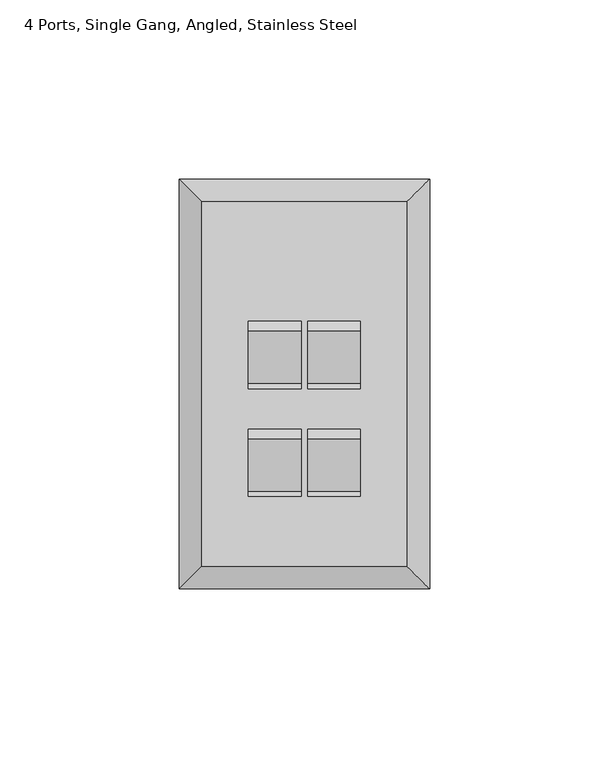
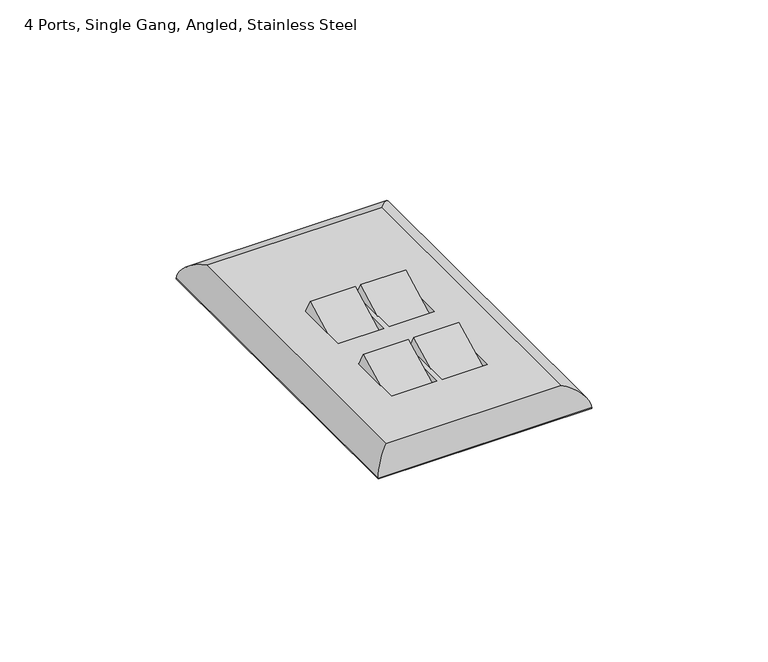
"""IFC4 building model written with IfcOpenShell, lengths in millimetres: electric appliance geometry, Data_Device-Work_Area-Leviton-QuickPort-Wallplate : 4 Ports, Single Gang, Angled, Stainless Steel."""

from ifc_helpers import new_model, si_unit, frame, origin, origin_with_axes, place, context, project, spatial, polyline, ellipse_curve, outline, extrude, source, transform, mapped, element, save
from ifc_brep_helpers import plane_surface, cylinder_surface, advanced_brep


def electric_appliance_4_ports_single_gang_angled_stainless_1cfd1c8f(model_context):
    return source(origin(), model_context, "Body", "SolidModel", [
        extrude(outline(polyline([(0.0, -16.51), (0.0, 0.0), (14.732, 0.0), (14.732, -16.51), (0.0, -16.51)])), frame((-7.3914, -18.8557048, -2.12579), z_axis=(0.0, -0.4558553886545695, 0.8900538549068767), x_axis=(-1.0, 0.0, 0.0)), (0.0, 0.0, 1.0), 6.35),
        extrude(outline(polyline([(0.0, -16.51), (0.0, 0.0), (14.732, 0.0), (14.732, -16.51), (0.0, -16.51)])), frame((-7.3914, 11.2505157, -2.12579), z_axis=(0.0, -0.4558553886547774, 0.8900538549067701), x_axis=(-1.0, 0.0, 0.0)), (0.0, 0.0, 1.0), 6.35),
        extrude(outline(polyline([(31.2674, 0.0), (31.2674, -16.51), (16.5354, -16.51), (16.5354, 0.0), (31.2674, 0.0)])), frame((-7.3914, -18.8557048, -2.12579), z_axis=(0.0, -0.4558553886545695, 0.8900538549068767), x_axis=(-1.0, 0.0, 0.0)), (0.0, 0.0, 1.0), 6.35),
        extrude(outline(polyline([(31.2674, 0.0), (31.2674, -16.51), (16.5354, -16.51), (16.5354, 0.0), (31.2674, 0.0)])), frame((-7.3914, 11.2505157, -2.12579), z_axis=(0.0, -0.4558553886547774, 0.8900538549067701), x_axis=(-1.0, 0.0, 0.0)), (0.0, 0.0, 1.0), 6.35),
        advanced_brep(
        [(5.5499, -42.6085, 6.35), (5.5499, 58.9915, 6.35), (-51.6001, 58.9915, 6.35), (-51.6001, -42.6085, 6.35), (-7.3914, -4.6472775, 6.35), (-7.3914, -23.1967169, 6.35), (-22.1234, -23.1967169, 6.35), (-22.1234, -4.6472775, 6.35), (-23.9268, -4.6472775, 6.35), (-23.9268, -23.1967169, 6.35), (-38.6588, -23.1967169, 6.35), (-38.6588, -4.6472775, 6.35), (-7.3914, 25.458943, 6.35), (-7.3914, 6.9095036, 6.35), (-22.1234, 6.9095036, 6.35), (-22.1234, 25.458943, 6.35), (-23.9268, 25.458943, 6.35), (-23.9268, 6.9095036, 6.35), (-38.6588, 6.9095036, 6.35), (-38.6588, 25.458943, 6.35), (11.8999, 65.3415, 0.0), (11.8999, -48.9585, 0.0), (-57.9501, -48.9585, 0.0), (-57.9501, 65.3415, 0.0), (-7.3914, -19.9444623, 0.0), (-7.3914, -1.3950229, 0.0), (-22.1234, -1.3950229, 0.0), (-22.1234, -19.9444623, 0.0), (-23.9268, -19.9444623, 0.0), (-23.9268, -1.3950229, 0.0), (-38.6588, -1.3950229, 0.0), (-38.6588, -19.9444623, 0.0), (-7.3914, 10.1617582, 0.0), (-7.3914, 28.7111975, 0.0), (-22.1234, 28.7111975, 0.0), (-22.1234, 10.1617582, 0.0), (-23.9268, 10.1617582, 0.0), (-23.9268, 28.7111975, 0.0), (-38.6588, 28.7111975, 0.0), (-38.6588, 10.1617582, 0.0), (-57.9501, 65.3415, 0.254), (11.8999, 65.3415, 0.254), (-57.9501, -48.9585, 0.254), (11.8999, -48.9585, 0.254)],
        [
            (0, 1),
            (1, 2),
            (2, 3),
            (3, 0),
            (4, 5),
            (5, 6),
            (6, 7),
            (7, 4),
            (8, 9),
            (9, 10),
            (10, 11),
            (11, 8),
            (12, 13),
            (13, 14),
            (14, 15),
            (15, 12),
            (16, 17),
            (17, 18),
            (18, 19),
            (19, 16),
            (20, 21),
            (21, 22),
            (22, 23),
            (23, 20),
            (24, 25),
            (25, 26),
            (26, 27),
            (27, 24),
            (28, 29),
            (29, 30),
            (30, 31),
            (31, 28),
            (32, 33),
            (33, 34),
            (34, 35),
            (35, 32),
            (36, 37),
            (37, 38),
            (38, 39),
            (39, 36),
            (23, 40),
            (40, 41),
            (41, 20),
            (22, 42),
            (42, 40),
            (21, 43),
            (43, 42),
            (41, 43),
            (4, 25),
            (24, 5),
            (27, 6),
            (26, 7),
            (8, 29),
            (28, 9),
            (31, 10),
            (30, 11),
            (12, 33),
            (32, 13),
            (35, 14),
            (34, 15),
            (16, 37),
            (36, 17),
            (39, 18),
            (38, 19),
            (0, 43, ellipse_curve(frame((5.5499, -42.6085, -0.0052917), z_axis=(0.7071067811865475, 0.7071067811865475, 0.0), x_axis=(0.7071067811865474, -0.7071067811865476, 0.0)), 8.9877397, 6.3552917)),
            (41, 1, ellipse_curve(frame((5.5499, 58.9915, -0.0052917), z_axis=(0.7071067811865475, -0.7071067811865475, 0.0), x_axis=(-0.7071067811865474, -0.7071067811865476, 0.0)), 8.9877397, 6.3552917)),
            (3, 42, ellipse_curve(frame((-51.6001, -42.6085, -0.0052917), z_axis=(0.7071067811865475, -0.7071067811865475, 0.0), x_axis=(-0.7071067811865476, -0.7071067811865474, 0.0)), 8.9877397, 6.3552917)),
            (2, 40, ellipse_curve(frame((-51.6001, 58.9915, -0.0052917), z_axis=(-0.7071067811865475, -0.7071067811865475, 0.0), x_axis=(-0.7071067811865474, 0.7071067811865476, 0.0)), 8.9877397, 6.3552917)),
        ],
        [
            plane_surface(frame((-57.9501, 65.3415, 6.35), z_axis=(0.0, 0.0, 1.0), x_axis=(-1.0, 0.0, 0.0))),
            plane_surface(frame((-57.9501, 65.3415, 0.0), z_axis=(0.0, 0.0, -1.0), x_axis=(1.0, 0.0, 0.0))),
            plane_surface(frame((11.8999, 65.3415, 6.35), z_axis=(0.0, 1.0, 0.0), x_axis=(0.0, 0.0, -1.0))),
            plane_surface(frame((-57.9501, 65.3415, 6.35), z_axis=(-1.0, 0.0, 0.0), x_axis=(0.0, 0.0, -1.0))),
            plane_surface(frame((-57.9501, -48.9585, 6.35), z_axis=(0.0, -1.0, 0.0), x_axis=(0.0, 0.0, -1.0))),
            plane_surface(frame((11.8999, -48.9585, 6.35), z_axis=(1.0, 0.0, 0.0), x_axis=(0.0, 0.0, -1.0))),
            plane_surface(frame((-7.3914, -0.1083612, -2.5121963), z_axis=(-1.0, 0.0, 0.0), x_axis=(0.0, -0.45585538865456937, 0.8900538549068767))),
            plane_surface(frame((-7.3914, -14.8031504, -10.0383688), z_axis=(0.0, 0.8900538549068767, 0.4558553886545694), x_axis=(0.0, -0.4558553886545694, 0.8900538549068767))),
            plane_surface(frame((-22.1234, -14.8031504, -10.0383688), z_axis=(1.0, 0.0, 0.0), x_axis=(0.0, -0.4558553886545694, 0.8900538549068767))),
            plane_surface(frame((-22.1234, -0.1083612, -2.5121963), z_axis=(0.0, -0.8900538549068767, -0.45585538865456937), x_axis=(0.0, -0.45585538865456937, 0.8900538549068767))),
            plane_surface(frame((-23.9268, -0.1083612, -2.5121963), z_axis=(-1.0, 0.0, 0.0), x_axis=(0.0, -0.45585538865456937, 0.8900538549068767))),
            plane_surface(frame((-23.9268, -14.8031504, -10.0383688), z_axis=(0.0, 0.8900538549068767, 0.4558553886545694), x_axis=(0.0, -0.4558553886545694, 0.8900538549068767))),
            plane_surface(frame((-38.6588, -14.8031504, -10.0383688), z_axis=(1.0, 0.0, 0.0), x_axis=(0.0, -0.4558553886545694, 0.8900538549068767))),
            plane_surface(frame((-38.6588, -0.1083612, -2.5121963), z_axis=(0.0, -0.8900538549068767, -0.45585538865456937), x_axis=(0.0, -0.45585538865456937, 0.8900538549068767))),
            plane_surface(frame((-7.3914, 29.9978593, -2.5121963), z_axis=(-1.0, 0.0, 0.0), x_axis=(0.0, -0.45585538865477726, 0.8900538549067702))),
            plane_surface(frame((-7.3914, 15.3030701, -10.0383688), z_axis=(0.0, 0.8900538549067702, 0.45585538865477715), x_axis=(0.0, -0.45585538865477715, 0.8900538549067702))),
            plane_surface(frame((-22.1234, 15.3030701, -10.0383688), z_axis=(1.0, 0.0, 0.0), x_axis=(0.0, -0.45585538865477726, 0.8900538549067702))),
            plane_surface(frame((-22.1234, 29.9978593, -2.5121963), z_axis=(0.0, -0.8900538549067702, -0.45585538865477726), x_axis=(0.0, -0.45585538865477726, 0.8900538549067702))),
            plane_surface(frame((-23.9268, 29.9978593, -2.5121963), z_axis=(-1.0, 0.0, 0.0), x_axis=(0.0, -0.45585538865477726, 0.8900538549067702))),
            plane_surface(frame((-23.9268, 15.3030701, -10.0383688), z_axis=(0.0, 0.8900538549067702, 0.45585538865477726), x_axis=(0.0, -0.45585538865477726, 0.8900538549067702))),
            plane_surface(frame((-38.6588, 15.3030701, -10.0383688), z_axis=(1.0, 0.0, 0.0), x_axis=(0.0, -0.45585538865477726, 0.8900538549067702))),
            plane_surface(frame((-38.6588, 29.9978593, -2.5121963), z_axis=(0.0, -0.8900538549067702, -0.45585538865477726), x_axis=(0.0, -0.45585538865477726, 0.8900538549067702))),
            cylinder_surface(frame((5.5499, 65.3415, -0.0052917), z_axis=(0.0, -1.0, 0.0), x_axis=(1.0, 0.0, 0.0)), 6.3552917),
            cylinder_surface(frame((11.8999, -42.6085, -0.0052917), z_axis=(-1.0, 0.0, 0.0), x_axis=(0.0, -1.0, 0.0)), 6.3552917),
            cylinder_surface(frame((-51.6001, -48.9585, -0.0052917), z_axis=(0.0, 1.0, 0.0), x_axis=(-1.0, 0.0, 0.0)), 6.3552917),
            cylinder_surface(frame((-57.9501, 58.9915, -0.0052917), z_axis=(1.0, 0.0, 0.0), x_axis=(0.0, 1.0, 0.0)), 6.3552917),
        ],
        [
            (0, [[1, 2, 3, 4], [5, 6, 7, 8], [9, 10, 11, 12], [13, 14, 15, 16], [17, 18, 19, 20]]),
            (1, [[21, 22, 23, 24], [25, 26, 27, 28], [29, 30, 31, 32], [33, 34, 35, 36], [37, 38, 39, 40]]),
            (2, [[-24, 41, 42, 43]]),
            (3, [[-23, 44, 45, -41]]),
            (4, [[-22, 46, 47, -44]]),
            (5, [[-21, -43, 48, -46]]),
            (6, [[49, -25, 50, -5]]),
            (7, [[-50, -28, 51, -6]]),
            (8, [[-51, -27, 52, -7]]),
            (9, [[-49, -8, -52, -26]]),
            (10, [[53, -29, 54, -9]]),
            (11, [[-54, -32, 55, -10]]),
            (12, [[-55, -31, 56, -11]]),
            (13, [[-53, -12, -56, -30]]),
            (14, [[57, -33, 58, -13]]),
            (15, [[-58, -36, 59, -14]]),
            (16, [[-59, -35, 60, -15]]),
            (17, [[-57, -16, -60, -34]]),
            (18, [[61, -37, 62, -17]]),
            (19, [[-62, -40, 63, -18]]),
            (20, [[-63, -39, 64, -19]]),
            (21, [[-61, -20, -64, -38]]),
            (22, [[65, -48, 66, -1]]),
            (23, [[-65, -4, 67, -47]]),
            (24, [[-67, -3, 68, -45]]),
            (25, [[-66, -42, -68, -2]]),
        ],
    ),
        extrude(outline(polyline([(11.6459, 65.0875), (11.6459, -48.7045), (-57.6961, -48.7045), (-57.6961, 65.0875), (11.6459, 65.0875)])), origin_with_axes(), (0.0, 0.0, 1.0), 0.254),
    ])


if __name__ == "__main__":
    model = new_model("IFC4")
    model_context = context("Model", 3, world=origin())
    ifc_project = project(units=[si_unit("LENGTHUNIT", "METRE", prefix="MILLI")], contexts=[model_context])
    site = spatial("IfcSite", under=ifc_project)
    building = spatial("IfcBuilding", under=site)
    placement = place(None, origin())
    electric_appliance_4_ports_single_gang_angled_stainless_shape = electric_appliance_4_ports_single_gang_angled_stainless_1cfd1c8f(model_context)
    element("IfcElectricAppliance", 1, ObjectType="Data_Device-Work_Area-Leviton-QuickPort-Wallplate : 4 Ports, Single Gang, Angled, Stainless Steel", at=placement, inside=building, context=model_context, shape_type="MappedRepresentation", body=[
        mapped(electric_appliance_4_ports_single_gang_angled_stainless_shape, transform((0.0, 0.0, 0.0), x_axis=(1.0, 0.0, 0.0), y_axis=(0.0, 1.0, 0.0), z_axis=(0.0, 0.0, 1.0))),
    ])
    save(model, "model.ifc")
